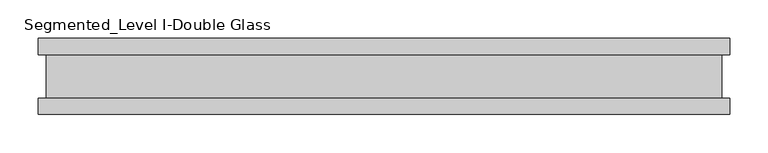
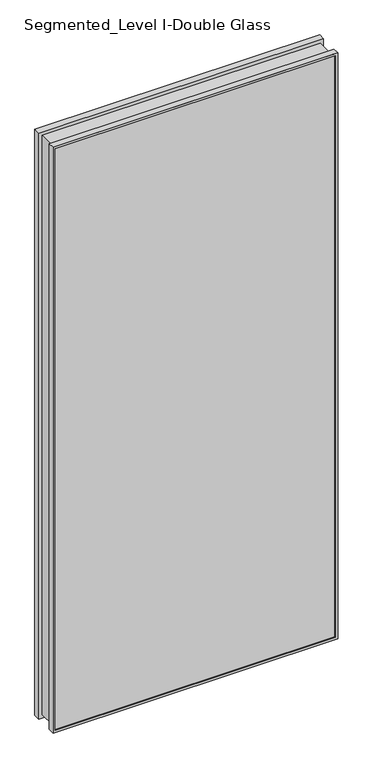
"""IFC4 building model written with IfcOpenShell, lengths in millimetres: proxy geometry, Panel-Fascia-Teknion-Altos-Double_Glass : Segmented_Level I-Double Glass."""

from ifc_helpers import new_model, si_unit, frame, origin, place, context, project, spatial, polyline, ellipse_curve, outline, extrude, source, transform, mapped, element, save
from ifc_brep_helpers import plane_surface, cylinder_surface, advanced_brep


def segmented_level_i_double_glass_e7056d44(model_context):
    return source(origin(), model_context, "Body", "SolidModel", [
        advanced_brep(
        [(454.6203125, 50.0558594, 1978.025), (454.6203125, 28.2698798, 1978.025), (454.6203125, 28.2698798, 3.175), (454.6203125, 50.0558594, 3.175), (447.1851047, 47.1322551, 1970.5897922), (447.1851047, 50.0558594, 1970.5897922), (447.1851047, 50.0558594, 10.6102078), (447.1851047, 47.1322551, 10.6102078), (452.4677862, 41.1791301, 1975.8724737), (452.4677862, 47.1322551, 1975.8724737), (452.4677862, 47.1322551, 5.3275263), (452.4677862, 41.1791301, 5.3275263), (446.662897, -40.9277344, 1970.0675845), (446.662897, 41.1791301, 1970.0675845), (446.662897, 41.1791301, 11.1324155), (446.662897, -40.9277344, 11.1324155), (452.4677862, -46.8808594, 1975.8724737), (452.4677862, -40.9277344, 1975.8724737), (452.4677862, -40.9277344, 5.3275263), (452.4677862, -46.8808594, 5.3275263), (447.1851047, -50.0558594, 1970.5897922), (447.1851047, -46.8808594, 1970.5897922), (447.1851047, -46.8808594, 10.6102078), (447.1851047, -50.0558594, 10.6102078), (454.6203125, -28.8801202, 1978.025), (454.6203125, -50.0558594, 1978.025), (454.6203125, -50.0558594, 3.175), (454.6203125, -28.8801202, 3.175), (443.7684711, 28.2698798, 1967.1731586), (443.7684711, -28.8801202, 1967.1731586), (443.7684711, -28.8801202, 14.0268414), (443.7684711, 28.2698798, 14.0268414), (-454.6203125, 28.2698798, 3.175), (-454.6203125, 50.0558594, 3.175), (-447.1851047, 50.0558594, 10.6102078), (-447.1851047, 47.1322551, 10.6102078), (-452.4677862, 47.1322551, 5.3275263), (-452.4677862, 41.1791301, 5.3275263), (-446.662897, 41.1791301, 11.1324155), (-446.662897, -40.9277344, 11.1324155), (-452.4677862, -40.9277344, 5.3275263), (-452.4677862, -46.8808594, 5.3275263), (-447.1851047, -46.8808594, 10.6102078), (-447.1851047, -50.0558594, 10.6102078), (-454.6203125, -50.0558594, 3.175), (-454.6203125, -28.8801202, 3.175), (-443.7684711, -28.8801202, 14.0268414), (-443.7684711, 28.2698798, 14.0268414), (-454.6203125, 28.2698798, 1978.025), (-454.6203125, 50.0558594, 1978.025), (-447.1851047, 50.0558594, 1970.5897922), (-447.1851047, 47.1322551, 1970.5897922), (-452.4677862, 47.1322551, 1975.8724737), (-452.4677862, 41.1791301, 1975.8724737), (-446.662897, 41.1791301, 1970.0675845), (-446.662897, -40.9277344, 1970.0675845), (-452.4677862, -40.9277344, 1975.8724737), (-452.4677862, -46.8808594, 1975.8724737), (-447.1851047, -46.8808594, 1970.5897922), (-447.1851047, -50.0558594, 1970.5897922), (-454.6203125, -50.0558594, 1978.025), (-454.6203125, -28.8801202, 1978.025), (-443.7684711, -28.8801202, 1967.1731586), (-443.7684711, 28.2698798, 1967.1731586)],
        [
            (0, 1),
            (1, 2),
            (2, 3),
            (3, 0),
            (4, 5),
            (5, 6),
            (6, 7),
            (7, 4),
            (8, 9),
            (9, 10),
            (10, 11),
            (11, 8),
            (12, 13, ellipse_curve(frame((486.0487393, 0.1256979, 2009.4534268), z_axis=(0.7071067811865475, 0.0, -0.7071067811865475), x_axis=(0.7071067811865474, 0.0, 0.7071067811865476)), 80.4565581, 56.8913778)),
            (13, 14),
            (14, 15, ellipse_curve(frame((486.0487393, 0.1256979, -28.2534268), z_axis=(0.7071067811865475, 0.0, 0.7071067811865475), x_axis=(-0.7071067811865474, 0.0, 0.7071067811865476)), 80.4565581, 56.8913778)),
            (15, 12),
            (16, 17),
            (17, 18),
            (18, 19),
            (19, 16),
            (20, 21),
            (21, 22),
            (22, 23),
            (23, 20),
            (24, 25),
            (25, 26),
            (26, 27),
            (27, 24),
            (28, 29),
            (29, 30),
            (30, 31),
            (31, 28),
            (2, 32),
            (32, 33),
            (33, 3),
            (6, 34),
            (34, 35),
            (35, 7),
            (10, 36),
            (36, 37),
            (37, 11),
            (14, 38),
            (38, 39, ellipse_curve(frame((-486.0487393, 0.1256979, -28.2534268), z_axis=(0.7071067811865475, 0.0, -0.7071067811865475), x_axis=(0.7071067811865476, 0.0, 0.7071067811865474)), 80.4565581, 56.8913778)),
            (39, 15),
            (18, 40),
            (40, 41),
            (41, 19),
            (22, 42),
            (42, 43),
            (43, 23),
            (26, 44),
            (44, 45),
            (45, 27),
            (30, 46),
            (46, 47),
            (47, 31),
            (32, 48),
            (48, 49),
            (49, 33),
            (34, 50),
            (50, 51),
            (51, 35),
            (36, 52),
            (52, 53),
            (53, 37),
            (38, 54),
            (54, 55, ellipse_curve(frame((-486.0487393, 0.1256979, 2009.4534268), z_axis=(-0.7071067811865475, 0.0, -0.7071067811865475), x_axis=(0.7071067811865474, 0.0, -0.7071067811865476)), 80.4565581, 56.8913778)),
            (55, 39),
            (40, 56),
            (56, 57),
            (57, 41),
            (42, 58),
            (58, 59),
            (59, 43),
            (44, 60),
            (60, 61),
            (61, 45),
            (46, 62),
            (62, 63),
            (63, 47),
            (48, 1),
            (0, 49),
            (5, 50),
            (4, 51),
            (9, 52),
            (8, 53),
            (13, 54),
            (12, 55),
            (17, 56),
            (16, 57),
            (21, 58),
            (20, 59),
            (25, 60),
            (24, 61),
            (29, 62),
            (28, 63),
        ],
        [
            plane_surface(frame((454.6203125, 28.2698798, 1978.025), z_axis=(1.0, 0.0, 0.0), x_axis=(0.0, 0.0, -1.0))),
            plane_surface(frame((447.1851047, 50.0558594, 1970.5897922), z_axis=(-1.0, 0.0, 0.0), x_axis=(0.0, 0.0, -1.0))),
            plane_surface(frame((452.4677862, 47.1322551, 1975.8724737), z_axis=(-1.0, 0.0, 0.0), x_axis=(0.0, 0.0, -1.0))),
            cylinder_surface(frame((486.0487393, 0.1256979, 1978.025), z_axis=(0.0, 0.0, 1.0), x_axis=(1.0, 0.0, 0.0)), 56.8913778),
            plane_surface(frame((452.4677862, -40.9277344, 1975.8724737), z_axis=(-1.0, 0.0, 0.0), x_axis=(0.0, 0.0, -1.0))),
            plane_surface(frame((447.1851047, -46.8808594, 1970.5897922), z_axis=(-1.0, 0.0, 0.0), x_axis=(0.0, 0.0, -1.0))),
            plane_surface(frame((454.6203125, -50.0558594, 1978.025), z_axis=(1.0, 0.0, 0.0), x_axis=(0.0, 0.0, -1.0))),
            plane_surface(frame((443.7684711, -28.8801202, 1967.1731586), z_axis=(1.0, 0.0, 0.0), x_axis=(0.0, 0.0, -1.0))),
            plane_surface(frame((454.6203125, 28.2698798, 3.175), z_axis=(0.0, 0.0, -1.0), x_axis=(-1.0, 0.0, 0.0))),
            plane_surface(frame((447.1851047, 50.0558594, 10.6102078), z_axis=(0.0, 0.0, 1.0), x_axis=(-1.0, 0.0, 0.0))),
            plane_surface(frame((452.4677862, 47.1322551, 5.3275263), z_axis=(0.0, 0.0, 1.0), x_axis=(-1.0, 0.0, 0.0))),
            cylinder_surface(frame((454.6203125, 0.1256979, -28.2534268), z_axis=(1.0, 0.0, 0.0), x_axis=(0.0, 0.0, -1.0)), 56.8913778),
            plane_surface(frame((452.4677862, -40.9277344, 5.3275263), z_axis=(0.0, 0.0, 1.0), x_axis=(-1.0, 0.0, 0.0))),
            plane_surface(frame((447.1851047, -46.8808594, 10.6102078), z_axis=(0.0, 0.0, 1.0), x_axis=(-1.0, 0.0, 0.0))),
            plane_surface(frame((454.6203125, -50.0558594, 3.175), z_axis=(0.0, 0.0, -1.0), x_axis=(-1.0, 0.0, 0.0))),
            plane_surface(frame((443.7684711, -28.8801202, 14.0268414), z_axis=(0.0, 0.0, -1.0), x_axis=(-1.0, 0.0, 0.0))),
            plane_surface(frame((-454.6203125, 28.2698798, 3.175), z_axis=(-1.0, 0.0, 0.0), x_axis=(0.0, 0.0, 1.0))),
            plane_surface(frame((-447.1851047, 50.0558594, 10.6102078), z_axis=(1.0, 0.0, 0.0), x_axis=(0.0, 0.0, 1.0))),
            plane_surface(frame((-452.4677862, 47.1322551, 5.3275263), z_axis=(1.0, 0.0, 0.0), x_axis=(0.0, 0.0, 1.0))),
            cylinder_surface(frame((-486.0487393, 0.1256979, 3.175), z_axis=(0.0, 0.0, -1.0), x_axis=(-1.0, 0.0, 0.0)), 56.8913778),
            plane_surface(frame((-452.4677862, -40.9277344, 5.3275263), z_axis=(1.0, 0.0, 0.0), x_axis=(0.0, 0.0, 1.0))),
            plane_surface(frame((-447.1851047, -46.8808594, 10.6102078), z_axis=(1.0, 0.0, 0.0), x_axis=(0.0, 0.0, 1.0))),
            plane_surface(frame((-454.6203125, -50.0558594, 3.175), z_axis=(-1.0, 0.0, 0.0), x_axis=(0.0, 0.0, 1.0))),
            plane_surface(frame((-443.7684711, -28.8801202, 14.0268414), z_axis=(-1.0, 0.0, 0.0), x_axis=(0.0, 0.0, 1.0))),
            plane_surface(frame((-454.6203125, 28.2698798, 1978.025), z_axis=(0.0, 0.0, 1.0), x_axis=(1.0, 0.0, 0.0))),
            plane_surface(frame((-454.6203125, 50.0558594, 1978.025), z_axis=(0.0, 1.0, 0.0), x_axis=(1.0, 0.0, 0.0))),
            plane_surface(frame((-447.1851047, 50.0558594, 1970.5897922), z_axis=(0.0, 0.0, -1.0), x_axis=(1.0, 0.0, 0.0))),
            plane_surface(frame((-447.1851047, 47.1322551, 1970.5897922), z_axis=(0.0, -1.0, 0.0), x_axis=(1.0, 0.0, 0.0))),
            plane_surface(frame((-452.4677862, 47.1322551, 1975.8724737), z_axis=(0.0, 0.0, -1.0), x_axis=(1.0, 0.0, 0.0))),
            plane_surface(frame((-452.4677862, 41.1791301, 1975.8724737), z_axis=(0.0, 1.0, 0.0), x_axis=(1.0, 0.0, 0.0))),
            cylinder_surface(frame((-454.6203125, 0.1256979, 2009.4534268), z_axis=(-1.0, 0.0, 0.0), x_axis=(0.0, 0.0, 1.0)), 56.8913778),
            plane_surface(frame((-446.662897, -40.9277344, 1970.0675845), z_axis=(0.0, -1.0, 0.0), x_axis=(1.0, 0.0, 0.0))),
            plane_surface(frame((-452.4677862, -40.9277344, 1975.8724737), z_axis=(0.0, 0.0, -1.0), x_axis=(1.0, 0.0, 0.0))),
            plane_surface(frame((-452.4677862, -46.8808594, 1975.8724737), z_axis=(0.0, 1.0, 0.0), x_axis=(1.0, 0.0, 0.0))),
            plane_surface(frame((-447.1851047, -46.8808594, 1970.5897922), z_axis=(0.0, 0.0, -1.0), x_axis=(1.0, 0.0, 0.0))),
            plane_surface(frame((-447.1851047, -50.0558594, 1970.5897922), z_axis=(0.0, -1.0, 0.0), x_axis=(1.0, 0.0, 0.0))),
            plane_surface(frame((-454.6203125, -50.0558594, 1978.025), z_axis=(0.0, 0.0, 1.0), x_axis=(1.0, 0.0, 0.0))),
            plane_surface(frame((-454.6203125, -28.8801202, 1978.025), z_axis=(0.0, 1.0, 0.0), x_axis=(1.0, 0.0, 0.0))),
            plane_surface(frame((-443.7684711, -28.8801202, 1967.1731586), z_axis=(0.0, 0.0, 1.0), x_axis=(1.0, 0.0, 0.0))),
            plane_surface(frame((-443.7684711, 28.2698798, 1967.1731586), z_axis=(0.0, -1.0, 0.0), x_axis=(1.0, 0.0, 0.0))),
        ],
        [
            (0, [[1, 2, 3, 4]]),
            (1, [[5, 6, 7, 8]]),
            (2, [[9, 10, 11, 12]]),
            (3, [[13, 14, 15, 16]]),
            (4, [[17, 18, 19, 20]]),
            (5, [[21, 22, 23, 24]]),
            (6, [[25, 26, 27, 28]]),
            (7, [[29, 30, 31, 32]]),
            (8, [[-3, 33, 34, 35]]),
            (9, [[-7, 36, 37, 38]]),
            (10, [[-11, 39, 40, 41]]),
            (11, [[-15, 42, 43, 44]]),
            (12, [[-19, 45, 46, 47]]),
            (13, [[-23, 48, 49, 50]]),
            (14, [[-27, 51, 52, 53]]),
            (15, [[-31, 54, 55, 56]]),
            (16, [[-34, 57, 58, 59]]),
            (17, [[-37, 60, 61, 62]]),
            (18, [[-40, 63, 64, 65]]),
            (19, [[-43, 66, 67, 68]]),
            (20, [[-46, 69, 70, 71]]),
            (21, [[-49, 72, 73, 74]]),
            (22, [[-52, 75, 76, 77]]),
            (23, [[-55, 78, 79, 80]]),
            (24, [[-58, 81, -1, 82]]),
            (25, [[-35, -59, -82, -4], [83, -60, -36, -6]]),
            (26, [[-61, -83, -5, 84]]),
            (27, [[85, -63, -39, -10], [-38, -62, -84, -8]]),
            (28, [[-64, -85, -9, 86]]),
            (29, [[-41, -65, -86, -12], [87, -66, -42, -14]]),
            (30, [[-67, -87, -13, 88]]),
            (31, [[89, -69, -45, -18], [-44, -68, -88, -16]]),
            (32, [[-70, -89, -17, 90]]),
            (33, [[-47, -71, -90, -20], [91, -72, -48, -22]]),
            (34, [[-73, -91, -21, 92]]),
            (35, [[93, -75, -51, -26], [-50, -74, -92, -24]]),
            (36, [[-76, -93, -25, 94]]),
            (37, [[-53, -77, -94, -28], [95, -78, -54, -30]]),
            (38, [[-79, -95, -29, 96]]),
            (39, [[-81, -57, -33, -2], [-56, -80, -96, -32]]),
        ],
    ),
        extrude(outline(polyline([(452.4677862, -40.9277344), (452.4677862, -46.8808594), (-452.4677862, -46.8808594), (-452.4677862, -40.9277344), (452.4677862, -40.9277344)])), frame((0.0, 0.0, 5.3275263), z_axis=(0.0, 0.0, 1.0), x_axis=(1.0, 0.0, 0.0)), (0.0, 0.0, 1.0), 1970.050928),
        extrude(outline(polyline([(452.4677862, 41.1791301), (-452.4677862, 41.1791301), (-452.4677862, 47.1322551), (452.4677862, 47.1322551), (452.4677862, 41.1791301)])), frame((0.0, 0.0, 5.3275263), z_axis=(0.0, 0.0, 1.0), x_axis=(1.0, 0.0, 0.0)), (0.0, 0.0, 1.0), 1970.050928),
    ])


if __name__ == "__main__":
    model = new_model("IFC4")
    model_context = context("Model", 3, world=origin())
    ifc_project = project(units=[si_unit("LENGTHUNIT", "METRE", prefix="MILLI")], contexts=[model_context])
    site = spatial("IfcSite", under=ifc_project)
    building = spatial("IfcBuilding", under=site)
    placement = place(None, origin())
    segmented_level_i_double_glass_shape = segmented_level_i_double_glass_e7056d44(model_context)
    element("IfcBuildingElementProxy", 1, Name="Panel-Fascia-Teknion-Altos-Double_Glass : Segmented_Level I-Double Glass", ObjectType="Panel-Fascia-Teknion-Altos-Double_Glass : Segmented_Level I-Double Glass", at=placement, inside=building, context=model_context, shape_type="MappedRepresentation", body=[
        mapped(segmented_level_i_double_glass_shape, transform((0.0, 0.0, 0.0), x_axis=(1.0, 0.0, 0.0), y_axis=(0.0, 1.0, 0.0), z_axis=(0.0, 0.0, 1.0))),
    ])
    save(model, "model.ifc")
